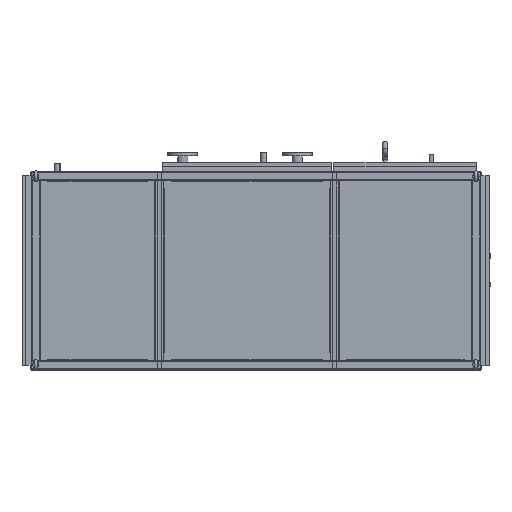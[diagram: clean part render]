
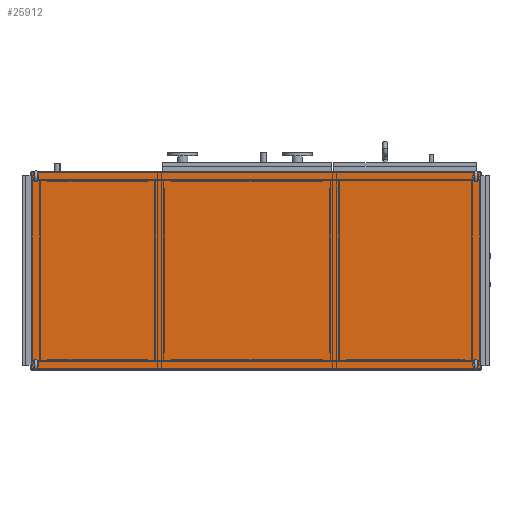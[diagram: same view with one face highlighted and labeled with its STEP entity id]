
A CAD part, top view. The second image highlights one B-rep face of the part: STEP entity #25912.
In plain terms, the highlighted planar face has unit normal (0, 0, 1).
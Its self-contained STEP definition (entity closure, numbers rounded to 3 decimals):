
#25912=ADVANCED_FACE('',(#46803),#46805,.T.);
#46803=FACE_BOUND('',#46804,.T.);
#46804=EDGE_LOOP('',(#61924,#61925,#61926,#61927));
#46805=PLANE('',#46806);
#46806=AXIS2_PLACEMENT_3D('',#46807,#46808,#46809);
#46807=CARTESIAN_POINT('',(-1777.,0.,1704.8));
#46808=DIRECTION('',(0.,0.,1.));
#46809=DIRECTION('',(-1.,0.,0.));
#61924=ORIENTED_EDGE('',*,*,#74600,.T.);
#61925=ORIENTED_EDGE('',*,*,#74294,.T.);
#61926=ORIENTED_EDGE('',*,*,#74601,.T.);
#61927=ORIENTED_EDGE('',*,*,#74602,.T.);
#74294=EDGE_CURVE('',#100508,#100506,#100509,.T.);
#74600=EDGE_CURVE('',#100995,#100508,#100996,.T.);
#74601=EDGE_CURVE('',#100506,#100997,#100998,.T.);
#74602=EDGE_CURVE('',#100997,#100995,#100999,.T.);
#100506=VERTEX_POINT('',#114108);
#100508=VERTEX_POINT('',#114113);
#100509=LINE('',#114114,#114115);
#100995=VERTEX_POINT('',#115421);
#100996=LINE('',#115422,#115423);
#100997=VERTEX_POINT('',#115425);
#100998=LINE('',#115426,#115427);
#100999=LINE('',#115429,#115430);
#114108=CARTESIAN_POINT('',(0.,0.,1704.8));
#114113=CARTESIAN_POINT('',(0.,-1100.,1704.8));
#114114=CARTESIAN_POINT('',(0.,-1100.,1704.8));
#114115=VECTOR('',#114116,1.);
#114116=DIRECTION('',(0.,1.,0.));
#115421=CARTESIAN_POINT('',(-2500.,-1100.,1704.8));
#115422=CARTESIAN_POINT('',(-2500.,-1100.,1704.8));
#115423=VECTOR('',#115424,1.);
#115424=DIRECTION('',(1.,0.,0.));
#115425=CARTESIAN_POINT('',(-2500.,0.,1704.8));
#115426=CARTESIAN_POINT('',(0.,0.,1704.8));
#115427=VECTOR('',#115428,1.);
#115428=DIRECTION('',(-1.,0.,0.));
#115429=CARTESIAN_POINT('',(-2500.,0.,1704.8));
#115430=VECTOR('',#115431,1.);
#115431=DIRECTION('',(0.,-1.,0.));
